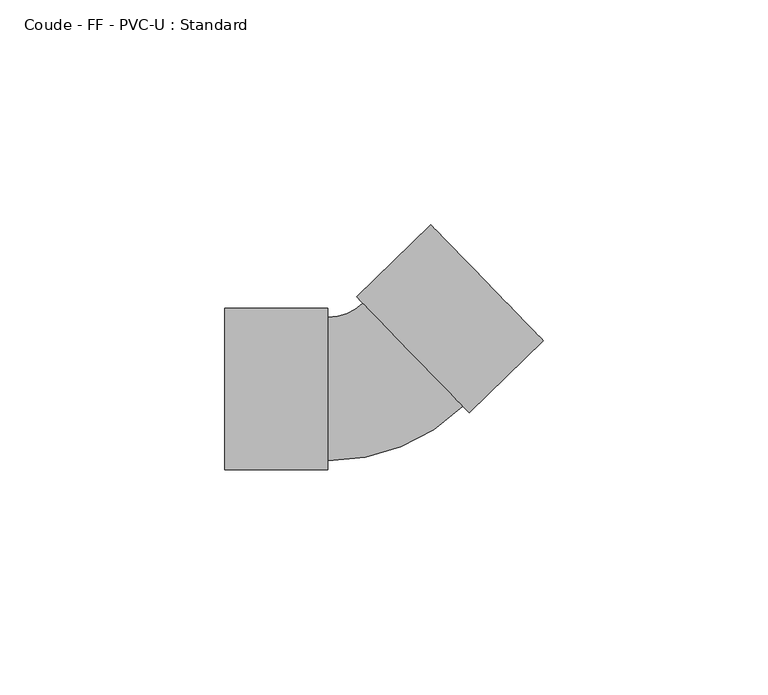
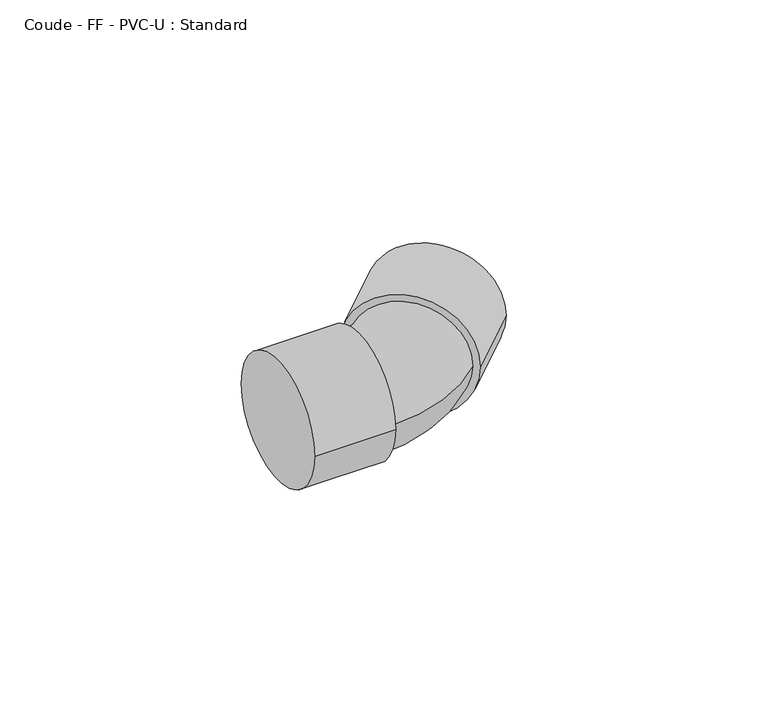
"""IFC4 building model written with IfcOpenShell, lengths in millimetres: pipe fitting geometry, Coude - FF - PVC-U : Standard."""

from ifc_helpers import new_model, si_unit, point, frame, origin, place, context, project, spatial, circle_curve, ellipse_curve, trimmed, source, transform, mapped, element, save
from ifc_brep_helpers import plane_surface, cylinder_surface, revolved_surface, advanced_brep


def coude_ff_pvc_u_standard_c60e91f8(model_context):
    return source(origin(), model_context, "Body", "AdvancedBrep", [
        advanced_brep(
        [(-34.0, -18.0, 0.0), (-34.0, 18.0, 0.0), (-11.0, -18.0, 0.0), (-11.0, 18.0, 0.0), (-11.0, -16.0, 0.0), (-11.0, 16.0, 0.0), (-3.2504032, 19.1424888, 0.0), (19.0370305, -3.8198782, 0.0), (20.4299951, -5.2550261, 0.0), (-4.6433678, 20.5776368, 0.0), (36.9341964, 10.7640668, 0.0), (11.8608336, 36.5967297, 0.0)],
        [
            (0, 1, circle_curve(frame((-34.0, 0.0, 0.0), z_axis=(-1.0, 0.0, 0.0), x_axis=(0.0, 1.0, 0.0)), 18.0)),
            (1, 0, circle_curve(frame((-34.0, 0.0, 0.0), z_axis=(-1.0, 0.0, 0.0), x_axis=(0.0, 1.0, 0.0)), 18.0)),
            (2, 3, circle_curve(frame((-11.0, 0.0, 0.0), z_axis=(1.0, 0.0, 0.0), x_axis=(0.0, 1.0, 0.0)), 18.0)),
            (3, 2, circle_curve(frame((-11.0, 0.0, 0.0), z_axis=(1.0, 0.0, 0.0), x_axis=(0.0, 1.0, 0.0)), 18.0)),
            (4, 5, circle_curve(frame((-11.0, 0.0, 0.0), z_axis=(-1.0, 0.0, 0.0), x_axis=(0.0, 1.0, 0.0)), 16.0)),
            (5, 4, circle_curve(frame((-11.0, 0.0, 0.0), z_axis=(-1.0, 0.0, 0.0), x_axis=(0.0, 1.0, 0.0)), 16.0)),
            (0, 2),
            (3, 1),
            (6, 5, circle_curve(frame((-11.0, 27.1267678, 0.0), z_axis=(0.0, 0.0, -1.0), x_axis=(0.0, -1.0, 0.0)), 11.1267678)),
            (4, 7, circle_curve(frame((-11.0, 27.1267678, 0.0), z_axis=(0.0, 0.0, 1.0), x_axis=(0.0, -1.0, 0.0)), 43.1267678)),
            (7, 6, circle_curve(frame((7.8933137, 7.6613053, 0.0), z_axis=(-0.717573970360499, -0.6964823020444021, 0.0), x_axis=(-0.6964823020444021, 0.717573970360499, 0.0)), 16.0)),
            (6, 7, circle_curve(frame((7.8933137, 7.6613053, 0.0), z_axis=(-0.717573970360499, -0.6964823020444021, 0.0), x_axis=(-0.6964823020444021, 0.717573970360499, 0.0)), 16.0)),
            (8, 9, circle_curve(frame((7.8933137, 7.6613053, 0.0), z_axis=(-0.7175739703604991, -0.6964823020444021, 0.0), x_axis=(-0.6964823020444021, 0.7175739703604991, 0.0)), 18.0)),
            (9, 8, circle_curve(frame((7.8933137, 7.6613053, 0.0), z_axis=(-0.7175739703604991, -0.6964823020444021, 0.0), x_axis=(-0.6964823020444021, 0.7175739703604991, 0.0)), 18.0)),
            (10, 11, circle_curve(frame((24.397515, 23.6803983, 0.0), z_axis=(0.7175739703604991, 0.6964823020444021, 0.0), x_axis=(-0.6964823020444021, 0.7175739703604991, 0.0)), 18.0)),
            (11, 10, circle_curve(frame((24.397515, 23.6803983, 0.0), z_axis=(0.7175739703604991, 0.6964823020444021, 0.0), x_axis=(-0.6964823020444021, 0.7175739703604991, 0.0)), 18.0)),
            (8, 10),
            (11, 9),
        ],
        [
            plane_surface(frame((-34.0, 0.0, 0.0), z_axis=(-1.0, 0.0, 0.0), x_axis=(0.0, 0.0, 1.0))),
            plane_surface(frame((-11.0, 0.0, 0.0), z_axis=(1.0, 0.0, 0.0), x_axis=(0.0, 0.0, 1.0))),
            cylinder_surface(frame((-34.0, 0.0, 0.0), z_axis=(-1.0, 0.0, 0.0), x_axis=(0.0, 1.0, 0.0)), 18.0),
            revolved_surface(trimmed(ellipse_curve(frame((-11.0, 0.0, 0.0), z_axis=(-1.0, 0.0, 0.0), x_axis=(0.0, 1.0, 0.0)), 16.0, 16.0), [point((-11.0, -16.0, 0.0))], [point((-11.0, 16.0, 0.0))], True, "CARTESIAN"), (-11.0, 27.1267678, 0.0), (0.0, 0.0, 1.0)),
            revolved_surface(trimmed(ellipse_curve(frame((-11.0, 0.0, 0.0), z_axis=(-1.0, 0.0, 0.0), x_axis=(0.0, 1.0, 0.0)), 16.0, 16.0), [point((-11.0, 16.0, 0.0))], [point((-11.0, -16.0, 0.0))], True, "CARTESIAN"), (-11.0, 27.1267678, 0.0), (0.0, 0.0, 1.0)),
            plane_surface(frame((7.8933137, 7.6613053, 0.0), z_axis=(-0.7175739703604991, -0.6964823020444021, 0.0), x_axis=(0.0, 0.0, 1.0))),
            plane_surface(frame((24.397515, 23.6803983, 0.0), z_axis=(0.7175739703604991, 0.6964823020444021, 0.0), x_axis=(0.0, 0.0, 1.0))),
            cylinder_surface(frame((7.8933137, 7.6613053, 0.0), z_axis=(-0.7175739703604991, -0.6964823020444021, 0.0), x_axis=(-0.6964823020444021, 0.7175739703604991, 0.0)), 18.0),
        ],
        [
            (0, [[1, 2]]),
            (1, [[3, 4], [5, 6]]),
            (2, [[-1, 7, -4, 8]]),
            (2, [[-2, -8, -3, -7]]),
            (3, [[9, -5, 10, 11]]),
            (4, [[-9, 12, -10, -6]]),
            (5, [[13, 14], [-11, -12]]),
            (6, [[15, 16]]),
            (7, [[-13, 17, -16, 18]]),
            (7, [[-14, -18, -15, -17]]),
        ],
    ),
    ])


if __name__ == "__main__":
    model = new_model("IFC4")
    model_context = context("Model", 3, world=origin())
    ifc_project = project(units=[si_unit("LENGTHUNIT", "METRE", prefix="MILLI")], contexts=[model_context])
    site = spatial("IfcSite", under=ifc_project)
    building = spatial("IfcBuilding", under=site)
    placement = place(None, origin())
    coude_ff_pvc_u_standard_shape = coude_ff_pvc_u_standard_c60e91f8(model_context)
    element("IfcPipeFitting", 1, ObjectType="Coude - FF - PVC-U : Standard", at=placement, inside=building, context=model_context, shape_type="MappedRepresentation", body=[
        mapped(coude_ff_pvc_u_standard_shape, transform((0.0, 0.0, 0.0), x_axis=(1.0, 0.0, 0.0), y_axis=(0.0, 1.0, 0.0), z_axis=(0.0, 0.0, 1.0))),
    ])
    save(model, "model.ifc")
